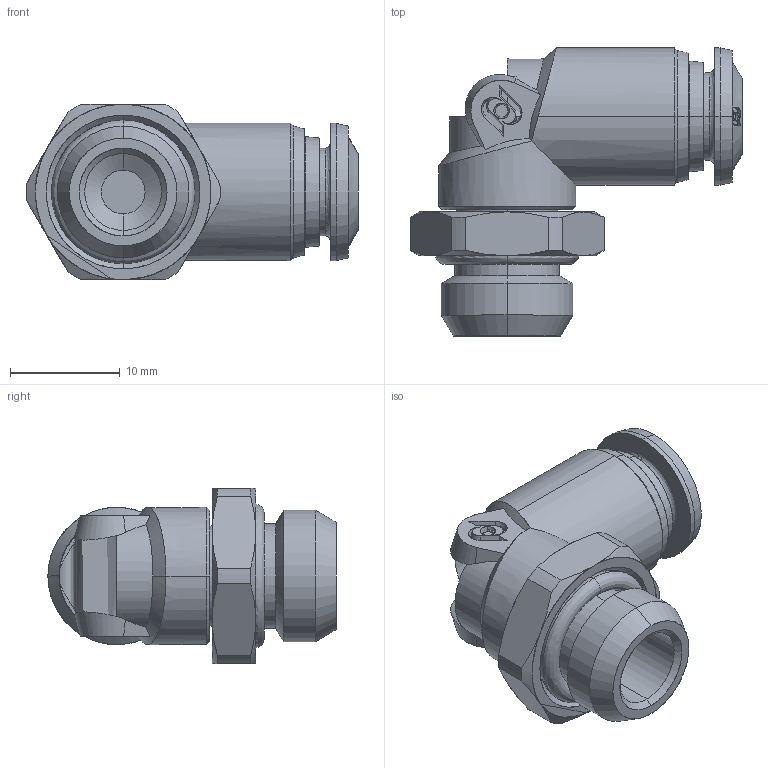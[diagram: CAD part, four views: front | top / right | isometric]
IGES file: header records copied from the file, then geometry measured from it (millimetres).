
Start section: SolidWorks IGES file using analytic representation for surfaces
Global section: file name: K:\Disegni Esecutivi\Serie 50000\ASSIEMI\50116\ASSIEMI_PIENI_50116\5011600023.IGS; native system: SolidWorks 2007; preprocessor: SolidWorks 2007; author: cad02; date: 071011.101039; units: millimetre
Bounding box: 30.25 x 26.25 x 16 mm (x, y, z)
Surface area: 3104.3 mm2 (no closed solid volume)
Topology: 0 solids, 0 shells, 233 faces, 2913 edges, 2912 vertices
Faces by surface type: bspline 121, revolution 112
